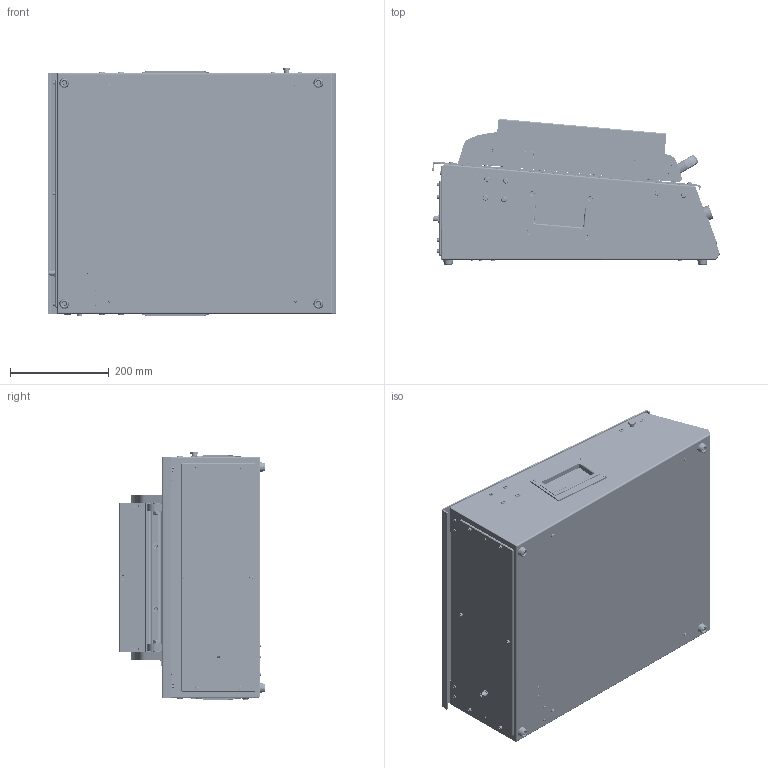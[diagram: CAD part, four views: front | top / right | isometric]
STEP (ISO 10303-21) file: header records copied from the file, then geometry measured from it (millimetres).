
FILE_DESCRIPTION (( 'STEP AP214' ), '1' );
FILE_NAME ('ARF-UPe-P-NSHA2 - fermé.STEP', '2026-09-11T15:59:57', ( '' ), ( '' ), 'SwSTEP 2.0', 'SolidWorks 2015', '' );
FILE_SCHEMA (( 'AUTOMOTIVE_DESIGN' ));
Length unit declared in the file: millimetre
Products named in the file (146): 8007_042; 8122_003 - STEP_Ferm‚; gd5x20; F Torx 04x08; 8122_149; M03 Hu; RM_6; gd4x20; 8122_126; CompagazL150; eac_m4; 8122_006 - STEP; 8122_072_Connect‚ ; 8122_170; CIR_EXT_D9; 8122_171; 22-27-2031; 25 MA Nut1; 8122_137; 8122_172; chc_04x16; M02.5 h; 8122_151_VERSION B; 8007_700; 8122_073; F Torx 06x18; 143004_10; chc_06x16; 8122_136; C85N25-60_BODY; 8122_108 - STEP; KQ2E06-00NJ; mr9m_100; 8122_144; F Torx 03x10; 8122_107 - STEP; C85N25-60_Sans Ecrou; ASR_T030180172L; F Torx 04x10; 8122_151_VERSION  B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
Assembly tree (429 placements, depth 5):
  ARF-UPe-P-NSHA2 - fermé
    8122_002
      8122_125
        8122_125
        eac_m4  x24
        eac_m5  x4
      8122_007_Version C
        8122_112_version C
        8122_113_version C
        Tête moltée M5
        ASR_T030180172L
        M05 Hu
        F Torx 04x14  x2
        chc_05x40
        Rd Cuv pleine M4  x2
        el_d5x5
        gd5x20
        gd4x20
      8122_162  x2
      8131_110 (PlaqueID)
      8122_161  x2
      poignée pliable  x2
      048_2000_114_07  x4
      54-1-3029_01  x2
      CIR_EXT_D5.6  x2
      chc_02,5x20  x2
      M02.5 h  x2
      M03 Hu
      F Torx 03x12
      az_03
      Rd Cuv pleine M4  x8
      F Torx 04x18  x8
      F Torx 04x08  x8
      F Torx 05x08  x4
      TCBL TORX M4X10  x2
      RM_4  x2
      RIVET 3 COURT  x4
      chc_04x08  x4
      8007_043_
        SY5120_5LZD_01
        AN110_01  x2
        KQ2L06-01NS  x3
      pression ESD
      AS1002F-06A  x2
      230-6322
      KQ2U06800A  x2
      8007_042
        8007_070
          8007_700
          22-27-2021  x2
          22-27-2031
        ehff_3x10  x2
        chc_03x06  x4
    8122_003 - STEP_Ferm‚
      8122_005 - STEP
        8122_107 - STEP
          8122_107
          eac_m5  x4
          eac_m4  x6
        8122_130  x2
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Bounding box: 582.98 x 296.2 x 503 mm (x, y, z)
Volume: 8541619.1 mm3; surface area: 4085379.2 mm2
Topology: 422 solids, 576 shells, 13770 faces, 34527 edges, 22288 vertices
Faces by surface type: cylinder 6259, plane 4782, cone 1932, torus 464, bspline 313, sphere 20
Entity records: 233889 total; most frequent: CARTESIAN_POINT 57836, DIRECTION 33700, ORIENTED_EDGE 31395, EDGE_CURVE 15934, AXIS2_PLACEMENT_3D 12499, VERTEX_POINT 10449, LINE 8702, VECTOR 8702
